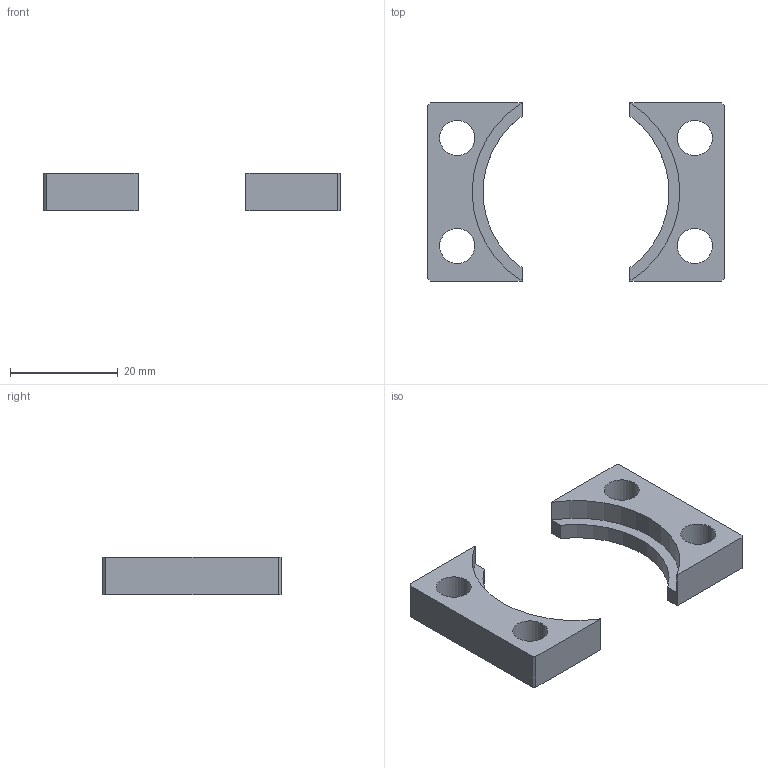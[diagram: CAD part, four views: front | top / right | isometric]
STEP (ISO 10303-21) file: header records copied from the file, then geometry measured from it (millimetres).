
FILE_DESCRIPTION(/* description */ (''),/* implementation_level */ '2;1');
FILE_NAME(/* name */ 'PNB-32-038.stp',/* time_stamp */ '2025-05-08T15:30:15-03:00',/* author */ ('jefferson'),/* organization */ (''),/* preprocessor_version */ 'ST-DEVELOPER v20',/* originating_system */ 'Autodesk Inventor 2025',/* authorisation */ '');
FILE_SCHEMA (('AUTOMOTIVE_DESIGN { 1 0 10303 214 3 1 1 }'));
Length unit declared in the file: millimetre
Products named in the file (1): PNB-32-038
Bounding box: 55 x 33 x 7 mm (x, y, z)
Volume: 4573.3 mm3; surface area: 3536.8 mm2
Topology: 2 solids, 2 shells, 206 faces, 558 edges, 372 vertices
Faces by surface type: bspline 102, plane 96, cylinder 8
Full cylindrical faces by diameter (mm): 6.5 x4
Entity records: 7028 total; most frequent: CARTESIAN_POINT 2463, ORIENTED_EDGE 1116, DIRECTION 580, EDGE_CURVE 558, VERTEX_POINT 372, LINE 338, VECTOR 338, EDGE_LOOP 230
